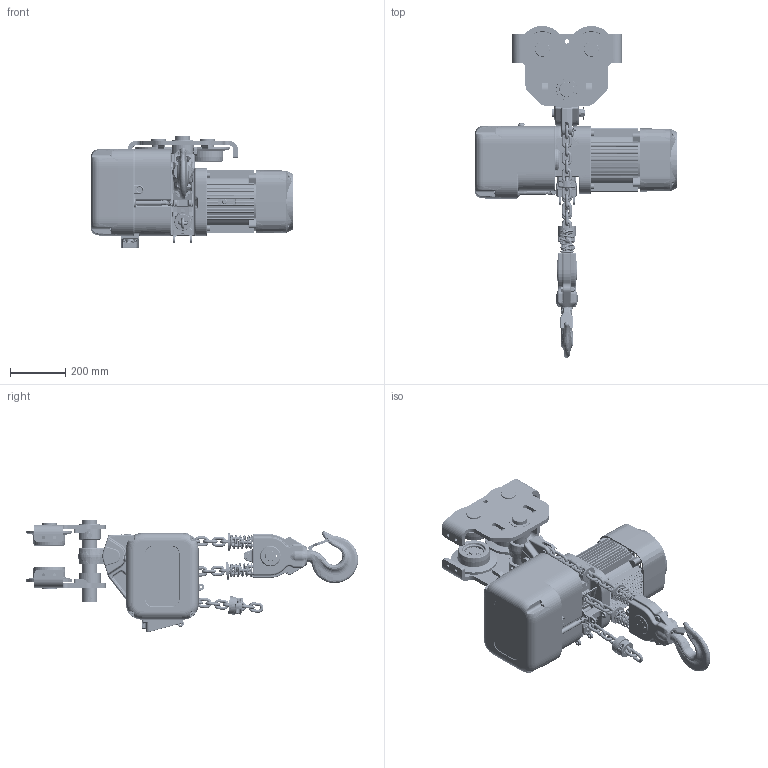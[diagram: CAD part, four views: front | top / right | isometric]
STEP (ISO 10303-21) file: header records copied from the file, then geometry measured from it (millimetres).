
FILE_DESCRIPTION (( 'STEP AP214' ), '1' );
FILE_NAME ('NER2P050L.STEP', '2026-08-05T14:13:27', ( '' ), ( '' ), 'SwSTEP 2.0', 'SolidWorks 2026', '' );
FILE_SCHEMA (( 'AUTOMOTIVE_DESIGN' ));
Length unit declared in the file: inch
Products named in the file (69): 9091255_9091255; M2049030_M2049030; ES006050; ER2FS6122; hexagon slotted nut low_1_jis_PreviewCfg; ER2FR9015; T7GA0509115; ER2BHM50R9A6; ES558003; M6SE050S9103; ER2FS6121; 9012713_9012713; ES041050; ER2FR1002; LCER2025 NP (SHAPED); ER2FS9331; 9009424_9009424; T3P1102050; ER2FS9337; LCER2025NP (2); PTS2050_6" FLANGE; 9009437_9009437; ER2EI4511; 9679711_9679711; LCER2025NP; E3S111003; ER2FR1011; ER2BHM25S9A5; NER2P050L; basic internal retaining ring_am_PreviewCfg; T5GA0505112; ER2FR2015; NER2050L_FOR MANUAL TROLLEY; ER2FS9103; ER1EM9051; T3GA0509102; M6SE050S9161; ER1ES1041; ER2EI2523; ER1BS9135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
Assembly tree (155 placements, depth 5):
  NER2P050L
    PTS2050_6" FLANGE
      T5GA0505112  x2
        T5GA0509112
        T5GA0509113
        M6SE050S9103
      T3P1102050  x4
        T3GA0509102
        basic internal retaining ring_am_PreviewCfg
        6307Z Bearing
      MS104050  x4
      9047135_9047135  x4
      T7GA0509115
      M6SE050S9164
      M6SE050S9161
      split pin (metric) as_9009423  x2
      hexagon slotted nut low_1_jis_PreviewCfg
    NER2050L_FOR MANUAL TROLLEY
      ER2FS9103
      ER2FS9101
      ER2FS9105
      ER2ES9107_ER2ES9107
      ER2FS9331
      ER2FS9338
      ER2FS9337
      ER2CS9357
      ES127005S
      ER1BS9135
      E3S112003
      E3S111003
      ER2FR9030
      ER2EI4511
        ER2CS9511
        MS561010  x8
        ER2EI2523
        ER2EI2564
        ES558003  x8
      ER2FR1011
        ER2FR9011
        ER2FR1002
        ER2FR2015
          ER2FR9015  x2
          9093146_9093146  x3
          9012713_9012713  x3
          9093433_9093433  x3
      ER1EM9051  x2
      ER2FS6121
      ER2FS6122
      ER1FS9054
      ER1EM9053
      ER1ES1041  x2
      ES006050
      ES041050
      M2049030_M2049030
      J1NL00120200_J1NL00120200
      9009437_9009437
      LCER2025NP_12 Links
        LCER2025NP  x12
      LCER2025NP (2)
        LCER2025NP  x16
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Bounding box: 736 x 1206.02 x 406.48 mm (x, y, z)
Volume: 37974918.9 mm3; surface area: 3842881.1 mm2
Topology: 175 solids, 195 shells, 8862 faces, 22488 edges, 14023 vertices
Faces by surface type: plane 3308, cylinder 2975, torus 915, bspline 858, cone 563, sphere 243
Entity records: 219177 total; most frequent: CARTESIAN_POINT 83247, ORIENTED_EDGE 27216, DIRECTION 27188, EDGE_CURVE 13610, AXIS2_PLACEMENT_3D 10585, VERTEX_POINT 8549, LINE 6018, VECTOR 6018
